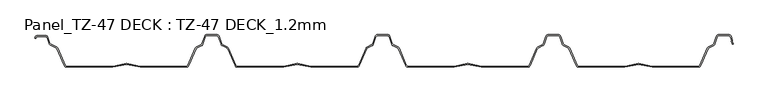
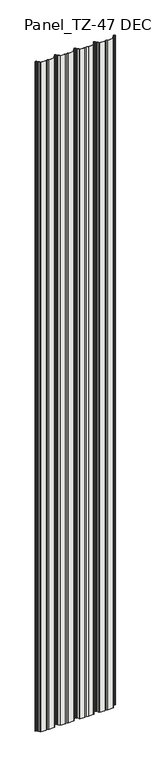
"""IFC4 building model written with IfcOpenShell, lengths in millimetres: roof geometry, Panel_TZ-47 DECK : TZ-47 DECK_1.2mm."""

from ifc_helpers import new_model, si_unit, point, frame_2d, origin, origin_with_axes, place, context, project, spatial, polyline, circle_curve, trimmed, segment, composite_curve, outline, extrude, source, transform, mapped, element, save


def panel_tz_47_deck_tz_47_deck_1_2mm_7df1c9f2(model_context):
    return source(origin(), model_context, "Body", "SweptSolid", [
        extrude(outline(composite_curve([segment(trimmed(circle_curve(frame_2d((462.6918032, -44.0)), 2.5), [point((462.6918032, -46.5))], [point((464.9851088, -44.9953639))], True, "CARTESIAN"), True, "CONTINUOUS"), segment(polyline([(464.9851088, -44.9953639), (475.884379, -19.8835868)]), True, "CONTINUOUS"), segment(trimmed(circle_curve(frame_2d((478.6363458, -21.0780235)), 3.0), [point((475.884379, -19.8835868))], [point((477.2893244, -18.397439))], False, "CARTESIAN"), True, "CONTINUOUS"), segment(polyline([(477.2893244, -18.397439), (484.4894233, -14.779315)]), True, "CONTINUOUS"), segment(trimmed(circle_curve(frame_2d((483.5914091, -12.9922586)), 2.0), [point((484.4894233, -14.779315))], [point((485.4900407, -13.6209063))], True, "CARTESIAN"), True, "CONTINUOUS"), segment(polyline([(485.4900407, -13.6209063), (489.2053906, -2.3998665)]), True, "CONTINUOUS"), segment(trimmed(circle_curve(frame_2d((492.5279959, -3.5)), 3.5), [point((489.2053906, -2.3998665))], [point((492.5279959, 0.0))], False, "CARTESIAN"), True, "CONTINUOUS"), segment(polyline([(492.5279959, 0.0), (507.4720041, 0.0)]), True, "CONTINUOUS"), segment(trimmed(circle_curve(frame_2d((507.4720041, -3.5)), 3.5), [point((507.4720041, 0.0))], [point((510.7946094, -2.3998665))], False, "CARTESIAN"), True, "CONTINUOUS"), segment(polyline([(510.7946094, -2.3998665), (512.5145908, -7.5945265)]), True, "CONTINUOUS"), segment(trimmed(circle_curve(frame_2d((510.6159592, -8.2231742)), 2.0), [point((512.5145908, -7.5945265))], [point((512.4038697, -9.1194865))], False, "CARTESIAN"), True, "CONTINUOUS"), segment(trimmed(circle_curve(frame_2d((513.3061161, -9.5655913)), 1.0065078), [point((512.4038697, -9.1194865))], [point((512.3506223, -9.8819608))], True, "CARTESIAN"), True, "CONTINUOUS"), segment(polyline([(512.3506223, -9.8819608), (513.5268409, -13.4343573), (512.3876619, -13.8115459), (511.2114433, -10.2591494)]), True, "CONTINUOUS"), segment(trimmed(circle_curve(frame_2d((513.3061161, -9.5655913)), 2.2065078), [point((511.2114433, -10.2591494))], [point((511.4888018, -8.3141739))], False, "CARTESIAN"), True, "CONTINUOUS"), segment(polyline([(511.4888018, -8.3141739), (509.6554304, -2.7770551)]), True, "CONTINUOUS"), segment(trimmed(circle_curve(frame_2d((507.4720041, -3.5)), 2.3), [point((509.6554304, -2.7770551))], [point((507.4720041, -1.2))], True, "CARTESIAN"), True, "CONTINUOUS"), segment(polyline([(507.4720041, -1.2), (492.5279959, -1.2)]), True, "CONTINUOUS"), segment(trimmed(circle_curve(frame_2d((492.5279959, -3.5)), 2.3), [point((492.5279959, -1.2))], [point((490.3445696, -2.7770551))], True, "CARTESIAN"), True, "CONTINUOUS"), segment(polyline([(490.3445696, -2.7770551), (486.6292197, -13.998095)]), True, "CONTINUOUS"), segment(trimmed(circle_curve(frame_2d((483.5914091, -12.9922586)), 3.2), [point((486.6292197, -13.998095))], [point((485.0282319, -15.8515488))], False, "CARTESIAN"), True, "CONTINUOUS"), segment(polyline([(485.0282319, -15.8515488), (477.8281329, -19.4696728)]), True, "CONTINUOUS"), segment(trimmed(circle_curve(frame_2d((478.6363458, -21.0780235)), 1.8), [point((477.8281329, -19.4696728))], [point((476.9851657, -20.3613615))], True, "CARTESIAN"), True, "CONTINUOUS"), segment(polyline([(476.9851657, -20.3613615), (466.0858955, -45.4731386)]), True, "CONTINUOUS"), segment(trimmed(circle_curve(frame_2d((462.6918032, -44.0)), 3.7), [point((466.0858955, -45.4731386))], [point((462.6918032, -47.7))], False, "CARTESIAN"), True, "CONTINUOUS"), segment(polyline([(462.6918032, -47.7), (394.9306863, -47.7), (375.0, -43.7138627), (355.0693137, -47.7), (287.3081968, -47.7)]), True, "CONTINUOUS"), segment(trimmed(circle_curve(frame_2d((287.3081968, -44.0)), 3.7), [point((287.3081968, -47.7))], [point((283.9141045, -45.4731386))], False, "CARTESIAN"), True, "CONTINUOUS"), segment(polyline([(283.9141045, -45.4731386), (273.0148343, -20.3613615)]), True, "CONTINUOUS"), segment(trimmed(circle_curve(frame_2d((271.3636542, -21.0780235)), 1.8), [point((273.0148343, -20.3613615))], [point((272.1718671, -19.4696728))], True, "CARTESIAN"), True, "CONTINUOUS"), segment(polyline([(272.1718671, -19.4696728), (264.9717681, -15.8515488)]), True, "CONTINUOUS"), segment(trimmed(circle_curve(frame_2d((266.4085909, -12.9922586)), 3.2), [point((264.9717681, -15.8515488))], [point((263.3707803, -13.998095))], False, "CARTESIAN"), True, "CONTINUOUS"), segment(polyline([(263.3707803, -13.998095), (259.6554304, -2.7770551)]), True, "CONTINUOUS"), segment(trimmed(circle_curve(frame_2d((257.4720041, -3.5)), 2.3), [point((259.6554304, -2.7770551))], [point((257.4720041, -1.2))], True, "CARTESIAN"), True, "CONTINUOUS"), segment(polyline([(257.4720041, -1.2), (242.5279959, -1.2)]), True, "CONTINUOUS"), segment(trimmed(circle_curve(frame_2d((242.5279959, -3.5)), 2.3), [point((242.5279959, -1.2))], [point((240.3445696, -2.7770551))], True, "CARTESIAN"), True, "CONTINUOUS"), segment(polyline([(240.3445696, -2.7770551), (236.6292197, -13.998095)]), True, "CONTINUOUS"), segment(trimmed(circle_curve(frame_2d((233.5914091, -12.9922586)), 3.2), [point((236.6292197, -13.998095))], [point((235.0282319, -15.8515488))], False, "CARTESIAN"), True, "CONTINUOUS"), segment(polyline([(235.0282319, -15.8515488), (227.8281329, -19.4696728)]), True, "CONTINUOUS"), segment(trimmed(circle_curve(frame_2d((228.6363458, -21.0780235)), 1.8), [point((227.8281329, -19.4696728))], [point((226.9851657, -20.3613615))], True, "CARTESIAN"), True, "CONTINUOUS"), segment(polyline([(226.9851657, -20.3613615), (216.0858955, -45.4731386)]), True, "CONTINUOUS"), segment(trimmed(circle_curve(frame_2d((212.6918032, -44.0)), 3.7), [point((216.0858955, -45.4731386))], [point((212.6918032, -47.7))], False, "CARTESIAN"), True, "CONTINUOUS"), segment(polyline([(212.6918032, -47.7), (144.9306863, -47.7), (125.0, -43.7138627), (105.0693137, -47.7), (37.3081968, -47.7)]), True, "CONTINUOUS"), segment(trimmed(circle_curve(frame_2d((37.3081968, -44.0)), 3.7), [point((37.3081968, -47.7))], [point((33.9141045, -45.4731386))], False, "CARTESIAN"), True, "CONTINUOUS"), segment(polyline([(33.9141045, -45.4731386), (23.0148343, -20.3613615)]), True, "CONTINUOUS"), segment(trimmed(circle_curve(frame_2d((21.3636542, -21.0780235)), 1.8), [point((23.0148343, -20.3613615))], [point((22.1718671, -19.4696728))], True, "CARTESIAN"), True, "CONTINUOUS"), segment(polyline([(22.1718671, -19.4696728), (14.9717681, -15.8515488)]), True, "CONTINUOUS"), segment(trimmed(circle_curve(frame_2d((16.4085909, -12.9922586)), 3.2), [point((14.9717681, -15.8515488))], [point((13.3707803, -13.998095))], False, "CARTESIAN"), True, "CONTINUOUS"), segment(polyline([(13.3707803, -13.998095), (9.6554304, -2.7770551)]), True, "CONTINUOUS"), segment(trimmed(circle_curve(frame_2d((7.4720041, -3.5)), 2.3), [point((9.6554304, -2.7770551))], [point((7.4720041, -1.2))], True, "CARTESIAN"), True, "CONTINUOUS"), segment(polyline([(7.4720041, -1.2), (-7.4720041, -1.2)]), True, "CONTINUOUS"), segment(trimmed(circle_curve(frame_2d((-7.4720041, -3.5)), 2.3), [point((-7.4720041, -1.2))], [point((-9.6554304, -2.7770551))], True, "CARTESIAN"), True, "CONTINUOUS"), segment(polyline([(-9.6554304, -2.7770551), (-13.3707803, -13.998095)]), True, "CONTINUOUS"), segment(trimmed(circle_curve(frame_2d((-16.4085909, -12.9922586)), 3.2), [point((-13.3707803, -13.998095))], [point((-14.9717681, -15.8515488))], False, "CARTESIAN"), True, "CONTINUOUS"), segment(polyline([(-14.9717681, -15.8515488), (-22.1718671, -19.4696728)]), True, "CONTINUOUS"), segment(trimmed(circle_curve(frame_2d((-21.3636542, -21.0780235)), 1.8), [point((-22.1718671, -19.4696728))], [point((-23.0148343, -20.3613615))], True, "CARTESIAN"), True, "CONTINUOUS"), segment(polyline([(-23.0148343, -20.3613615), (-33.9141045, -45.4731386)]), True, "CONTINUOUS"), segment(trimmed(circle_curve(frame_2d((-37.3081968, -44.0)), 3.7), [point((-33.9141045, -45.4731386))], [point((-37.3081968, -47.7))], False, "CARTESIAN"), True, "CONTINUOUS"), segment(polyline([(-37.3081968, -47.7), (-105.0693137, -47.7), (-125.0, -43.7138627), (-144.9306863, -47.7), (-212.6918032, -47.7)]), True, "CONTINUOUS"), segment(trimmed(circle_curve(frame_2d((-212.6918032, -44.0)), 3.7), [point((-212.6918032, -47.7))], [point((-216.0858955, -45.4731386))], False, "CARTESIAN"), True, "CONTINUOUS"), segment(polyline([(-216.0858955, -45.4731386), (-226.9851657, -20.3613615)]), True, "CONTINUOUS"), segment(trimmed(circle_curve(frame_2d((-228.6363458, -21.0780235)), 1.8), [point((-226.9851657, -20.3613615))], [point((-227.8281329, -19.4696728))], True, "CARTESIAN"), True, "CONTINUOUS"), segment(polyline([(-227.8281329, -19.4696728), (-235.0282319, -15.8515488)]), True, "CONTINUOUS"), segment(trimmed(circle_curve(frame_2d((-233.5914091, -12.9922586)), 3.2), [point((-235.0282319, -15.8515488))], [point((-236.6292197, -13.998095))], False, "CARTESIAN"), True, "CONTINUOUS"), segment(polyline([(-236.6292197, -13.998095), (-240.3445696, -2.7770551)]), True, "CONTINUOUS"), segment(trimmed(circle_curve(frame_2d((-242.5279959, -3.5)), 2.3), [point((-240.3445696, -2.7770551))], [point((-242.5279959, -1.2))], True, "CARTESIAN"), True, "CONTINUOUS"), segment(polyline([(-242.5279959, -1.2), (-257.4720041, -1.2)]), True, "CONTINUOUS"), segment(trimmed(circle_curve(frame_2d((-257.4720041, -3.5)), 2.3), [point((-257.4720041, -1.2))], [point((-259.6554304, -2.7770551))], True, "CARTESIAN"), True, "CONTINUOUS"), segment(polyline([(-259.6554304, -2.7770551), (-263.3707803, -13.998095)]), True, "CONTINUOUS"), segment(trimmed(circle_curve(frame_2d((-266.4085909, -12.9922586)), 3.2), [point((-263.3707803, -13.998095))], [point((-264.9717681, -15.8515488))], False, "CARTESIAN"), True, "CONTINUOUS"), segment(polyline([(-264.9717681, -15.8515488), (-272.1718671, -19.4696728)]), True, "CONTINUOUS"), segment(trimmed(circle_curve(frame_2d((-271.3636542, -21.0780235)), 1.8), [point((-272.1718671, -19.4696728))], [point((-273.0148343, -20.3613615))], True, "CARTESIAN"), True, "CONTINUOUS"), segment(polyline([(-273.0148343, -20.3613615), (-283.9141045, -45.4731386)]), True, "CONTINUOUS"), segment(trimmed(circle_curve(frame_2d((-287.3081968, -44.0)), 3.7), [point((-283.9141045, -45.4731386))], [point((-287.3081968, -47.7))], False, "CARTESIAN"), True, "CONTINUOUS"), segment(polyline([(-287.3081968, -47.7), (-355.0693137, -47.7), (-375.0, -43.7138627), (-394.9306863, -47.7), (-462.6918032, -47.7)]), True, "CONTINUOUS"), segment(trimmed(circle_curve(frame_2d((-462.6918032, -44.0)), 3.7), [point((-462.6918032, -47.7))], [point((-466.0858955, -45.4731386))], False, "CARTESIAN"), True, "CONTINUOUS"), segment(polyline([(-466.0858955, -45.4731386), (-476.9851657, -20.3613615)]), True, "CONTINUOUS"), segment(trimmed(circle_curve(frame_2d((-478.6363458, -21.0780235)), 1.8), [point((-476.9851657, -20.3613615))], [point((-477.8281329, -19.4696728))], True, "CARTESIAN"), True, "CONTINUOUS"), segment(polyline([(-477.8281329, -19.4696728), (-486.8276215, -14.9473369)]), True, "CONTINUOUS"), segment(trimmed(circle_curve(frame_2d((-485.3907987, -12.0880468)), 3.2), [point((-486.8276215, -14.9473369))], [point((-488.4286093, -13.0938831))], False, "CARTESIAN"), True, "CONTINUOUS"), segment(polyline([(-488.4286093, -13.0938831), (-491.3479111, -4.2770551)]), True, "CONTINUOUS"), segment(trimmed(circle_curve(frame_2d((-493.5313374, -5.0)), 2.3), [point((-491.3479111, -4.2770551))], [point((-493.5313374, -2.7))], True, "CARTESIAN"), True, "CONTINUOUS"), segment(polyline([(-493.5313374, -2.7), (-506.2431725, -2.7)]), True, "CONTINUOUS"), segment(trimmed(circle_curve(frame_2d((-506.2431725, -4.0)), 1.3), [point((-506.2431725, -2.7))], [point((-507.4772831, -3.591379))], True, "CARTESIAN"), True, "CONTINUOUS"), segment(polyline([(-507.4772831, -3.591379), (-508.1059308, -5.4900106), (-509.2451097, -5.112822), (-508.616462, -3.2141904)]), True, "CONTINUOUS"), segment(trimmed(circle_curve(frame_2d((-506.2431725, -4.0)), 2.5), [point((-508.616462, -3.2141904))], [point((-506.2431725, -1.5))], False, "CARTESIAN"), True, "CONTINUOUS"), segment(polyline([(-506.2431725, -1.5), (-493.5313374, -1.5)]), True, "CONTINUOUS"), segment(trimmed(circle_curve(frame_2d((-493.5313374, -5.0)), 3.5), [point((-493.5313374, -1.5))], [point((-490.2087321, -3.8998665))], False, "CARTESIAN"), True, "CONTINUOUS"), segment(polyline([(-490.2087321, -3.8998665), (-487.2894304, -12.7166945)]), True, "CONTINUOUS"), segment(trimmed(circle_curve(frame_2d((-485.3907987, -12.0880468)), 2.0), [point((-487.2894304, -12.7166945))], [point((-486.288813, -13.8751031))], True, "CARTESIAN"), True, "CONTINUOUS"), segment(polyline([(-486.288813, -13.8751031), (-477.2893244, -18.397439)]), True, "CONTINUOUS"), segment(trimmed(circle_curve(frame_2d((-478.6363458, -21.0780235)), 3.0), [point((-477.2893244, -18.397439))], [point((-475.884379, -19.8835868))], False, "CARTESIAN"), True, "CONTINUOUS"), segment(polyline([(-475.884379, -19.8835868), (-464.9851088, -44.9953639)]), True, "CONTINUOUS"), segment(trimmed(circle_curve(frame_2d((-462.6918032, -44.0)), 2.5), [point((-464.9851088, -44.9953639))], [point((-462.6918032, -46.5))], True, "CARTESIAN"), True, "CONTINUOUS"), segment(polyline([(-462.6918032, -46.5), (-395.0495098, -46.5), (-375.5883484, -42.6077677)]), True, "CONTINUOUS"), segment(trimmed(circle_curve(frame_2d((-375.0, -45.5495098)), 3.0), [point((-375.5883484, -42.6077677))], [point((-374.4116516, -42.6077677))], False, "CARTESIAN"), True, "CONTINUOUS"), segment(polyline([(-374.4116516, -42.6077677), (-354.9504902, -46.5), (-287.3081968, -46.5)]), True, "CONTINUOUS"), segment(trimmed(circle_curve(frame_2d((-287.3081968, -44.0)), 2.5), [point((-287.3081968, -46.5))], [point((-285.0148912, -44.9953639))], True, "CARTESIAN"), True, "CONTINUOUS"), segment(polyline([(-285.0148912, -44.9953639), (-274.115621, -19.8835868)]), True, "CONTINUOUS"), segment(trimmed(circle_curve(frame_2d((-271.3636542, -21.0780235)), 3.0), [point((-274.115621, -19.8835868))], [point((-272.7106756, -18.397439))], False, "CARTESIAN"), True, "CONTINUOUS"), segment(polyline([(-272.7106756, -18.397439), (-265.5105767, -14.779315)]), True, "CONTINUOUS"), segment(trimmed(circle_curve(frame_2d((-266.4085909, -12.9922586)), 2.0), [point((-265.5105767, -14.779315))], [point((-264.5099593, -13.6209063))], True, "CARTESIAN"), True, "CONTINUOUS"), segment(polyline([(-264.5099593, -13.6209063), (-260.7946094, -2.3998665)]), True, "CONTINUOUS"), segment(trimmed(circle_curve(frame_2d((-257.4720041, -3.5)), 3.5), [point((-260.7946094, -2.3998665))], [point((-257.4720041, 0.0))], False, "CARTESIAN"), True, "CONTINUOUS"), segment(polyline([(-257.4720041, 0.0), (-242.5279959, 0.0)]), True, "CONTINUOUS"), segment(trimmed(circle_curve(frame_2d((-242.5279959, -3.5)), 3.5), [point((-242.5279959, 0.0))], [point((-239.2053906, -2.3998665))], False, "CARTESIAN"), True, "CONTINUOUS"), segment(polyline([(-239.2053906, -2.3998665), (-235.4900407, -13.6209063)]), True, "CONTINUOUS"), segment(trimmed(circle_curve(frame_2d((-233.5914091, -12.9922586)), 2.0), [point((-235.4900407, -13.6209063))], [point((-234.4894233, -14.779315))], True, "CARTESIAN"), True, "CONTINUOUS"), segment(polyline([(-234.4894233, -14.779315), (-227.2893244, -18.397439)]), True, "CONTINUOUS"), segment(trimmed(circle_curve(frame_2d((-228.6363458, -21.0780235)), 3.0), [point((-227.2893244, -18.397439))], [point((-225.884379, -19.8835868))], False, "CARTESIAN"), True, "CONTINUOUS"), segment(polyline([(-225.884379, -19.8835868), (-214.9851088, -44.9953639)]), True, "CONTINUOUS"), segment(trimmed(circle_curve(frame_2d((-212.6918032, -44.0)), 2.5), [point((-214.9851088, -44.9953639))], [point((-212.6918032, -46.5))], True, "CARTESIAN"), True, "CONTINUOUS"), segment(polyline([(-212.6918032, -46.5), (-145.0495098, -46.5), (-125.5883484, -42.6077677)]), True, "CONTINUOUS"), segment(trimmed(circle_curve(frame_2d((-125.0, -45.5495098)), 3.0), [point((-125.5883484, -42.6077677))], [point((-124.4116516, -42.6077677))], False, "CARTESIAN"), True, "CONTINUOUS"), segment(polyline([(-124.4116516, -42.6077677), (-104.9504902, -46.5), (-37.3081968, -46.5)]), True, "CONTINUOUS"), segment(trimmed(circle_curve(frame_2d((-37.3081968, -44.0)), 2.5), [point((-37.3081968, -46.5))], [point((-35.0148912, -44.9953639))], True, "CARTESIAN"), True, "CONTINUOUS"), segment(polyline([(-35.0148912, -44.9953639), (-24.115621, -19.8835868)]), True, "CONTINUOUS"), segment(trimmed(circle_curve(frame_2d((-21.3636542, -21.0780235)), 3.0), [point((-24.115621, -19.8835868))], [point((-22.7106756, -18.397439))], False, "CARTESIAN"), True, "CONTINUOUS"), segment(polyline([(-22.7106756, -18.397439), (-15.5105767, -14.779315)]), True, "CONTINUOUS"), segment(trimmed(circle_curve(frame_2d((-16.4085909, -12.9922586)), 2.0), [point((-15.5105767, -14.779315))], [point((-14.5099593, -13.6209063))], True, "CARTESIAN"), True, "CONTINUOUS"), segment(polyline([(-14.5099593, -13.6209063), (-10.7946094, -2.3998665)]), True, "CONTINUOUS"), segment(trimmed(circle_curve(frame_2d((-7.4720041, -3.5)), 3.5), [point((-10.7946094, -2.3998665))], [point((-7.4720041, 0.0))], False, "CARTESIAN"), True, "CONTINUOUS"), segment(polyline([(-7.4720041, 0.0), (7.4720041, 0.0)]), True, "CONTINUOUS"), segment(trimmed(circle_curve(frame_2d((7.4720041, -3.5)), 3.5), [point((7.4720041, 0.0))], [point((10.7946094, -2.3998665))], False, "CARTESIAN"), True, "CONTINUOUS"), segment(polyline([(10.7946094, -2.3998665), (14.5099593, -13.6209063)]), True, "CONTINUOUS"), segment(trimmed(circle_curve(frame_2d((16.4085909, -12.9922586)), 2.0), [point((14.5099593, -13.6209063))], [point((15.5105767, -14.779315))], True, "CARTESIAN"), True, "CONTINUOUS"), segment(polyline([(15.5105767, -14.779315), (22.7106756, -18.397439)]), True, "CONTINUOUS"), segment(trimmed(circle_curve(frame_2d((21.3636542, -21.0780235)), 3.0), [point((22.7106756, -18.397439))], [point((24.115621, -19.8835868))], False, "CARTESIAN"), True, "CONTINUOUS"), segment(polyline([(24.115621, -19.8835868), (35.0148912, -44.9953639)]), True, "CONTINUOUS"), segment(trimmed(circle_curve(frame_2d((37.3081968, -44.0)), 2.5), [point((35.0148912, -44.9953639))], [point((37.3081968, -46.5))], True, "CARTESIAN"), True, "CONTINUOUS"), segment(polyline([(37.3081968, -46.5), (104.9504902, -46.5), (124.4116516, -42.6077677)]), True, "CONTINUOUS"), segment(trimmed(circle_curve(frame_2d((125.0, -45.5495098)), 3.0), [point((124.4116516, -42.6077677))], [point((125.5883484, -42.6077677))], False, "CARTESIAN"), True, "CONTINUOUS"), segment(polyline([(125.5883484, -42.6077677), (145.0495098, -46.5), (212.6918032, -46.5)]), True, "CONTINUOUS"), segment(trimmed(circle_curve(frame_2d((212.6918032, -44.0)), 2.5), [point((212.6918032, -46.5))], [point((214.9851088, -44.9953639))], True, "CARTESIAN"), True, "CONTINUOUS"), segment(polyline([(214.9851088, -44.9953639), (225.884379, -19.8835868)]), True, "CONTINUOUS"), segment(trimmed(circle_curve(frame_2d((228.6363458, -21.0780235)), 3.0), [point((225.884379, -19.8835868))], [point((227.2893244, -18.397439))], False, "CARTESIAN"), True, "CONTINUOUS"), segment(polyline([(227.2893244, -18.397439), (234.4894233, -14.779315)]), True, "CONTINUOUS"), segment(trimmed(circle_curve(frame_2d((233.5914091, -12.9922586)), 2.0), [point((234.4894233, -14.779315))], [point((235.4900407, -13.6209063))], True, "CARTESIAN"), True, "CONTINUOUS"), segment(polyline([(235.4900407, -13.6209063), (239.2053906, -2.3998665)]), True, "CONTINUOUS"), segment(trimmed(circle_curve(frame_2d((242.5279959, -3.5)), 3.5), [point((239.2053906, -2.3998665))], [point((242.5279959, 0.0))], False, "CARTESIAN"), True, "CONTINUOUS"), segment(polyline([(242.5279959, 0.0), (257.4720041, 0.0)]), True, "CONTINUOUS"), segment(trimmed(circle_curve(frame_2d((257.4720041, -3.5)), 3.5), [point((257.4720041, 0.0))], [point((260.7946094, -2.3998665))], False, "CARTESIAN"), True, "CONTINUOUS"), segment(polyline([(260.7946094, -2.3998665), (264.5099593, -13.6209063)]), True, "CONTINUOUS"), segment(trimmed(circle_curve(frame_2d((266.4085909, -12.9922586)), 2.0), [point((264.5099593, -13.6209063))], [point((265.5105767, -14.779315))], True, "CARTESIAN"), True, "CONTINUOUS"), segment(polyline([(265.5105767, -14.779315), (272.7106756, -18.397439)]), True, "CONTINUOUS"), segment(trimmed(circle_curve(frame_2d((271.3636542, -21.0780235)), 3.0), [point((272.7106756, -18.397439))], [point((274.115621, -19.8835868))], False, "CARTESIAN"), True, "CONTINUOUS"), segment(polyline([(274.115621, -19.8835868), (285.0148912, -44.9953639)]), True, "CONTINUOUS"), segment(trimmed(circle_curve(frame_2d((287.3081968, -44.0)), 2.5), [point((285.0148912, -44.9953639))], [point((287.3081968, -46.5))], True, "CARTESIAN"), True, "CONTINUOUS"), segment(polyline([(287.3081968, -46.5), (354.9504902, -46.5), (374.4116516, -42.6077677)]), True, "CONTINUOUS"), segment(trimmed(circle_curve(frame_2d((375.0, -45.5495098)), 3.0), [point((374.4116516, -42.6077677))], [point((375.5883484, -42.6077677))], False, "CARTESIAN"), True, "CONTINUOUS"), segment(polyline([(375.5883484, -42.6077677), (395.0495098, -46.5), (462.6918032, -46.5)]), True, "CONTINUOUS")], self_intersect=False)), origin_with_axes(), (0.0, 0.0, 1.0), 9000.0),
    ])


if __name__ == "__main__":
    model = new_model("IFC4")
    model_context = context("Model", 3, world=origin())
    ifc_project = project(units=[si_unit("LENGTHUNIT", "METRE", prefix="MILLI")], contexts=[model_context])
    site = spatial("IfcSite", under=ifc_project)
    building = spatial("IfcBuilding", under=site)
    placement = place(None, origin())
    panel_tz_47_deck_tz_47_deck_1_2mm_shape = panel_tz_47_deck_tz_47_deck_1_2mm_7df1c9f2(model_context)
    element("IfcRoof", 1, ObjectType="Panel_TZ-47 DECK : TZ-47 DECK_1.2mm", at=placement, inside=building, context=model_context, shape_type="MappedRepresentation", body=[
        mapped(panel_tz_47_deck_tz_47_deck_1_2mm_shape, transform((0.0, 0.0, 0.0), x_axis=(1.0, 0.0, 0.0), y_axis=(0.0, 1.0, 0.0), z_axis=(0.0, 0.0, 1.0))),
    ])
    save(model, "model.ifc")
